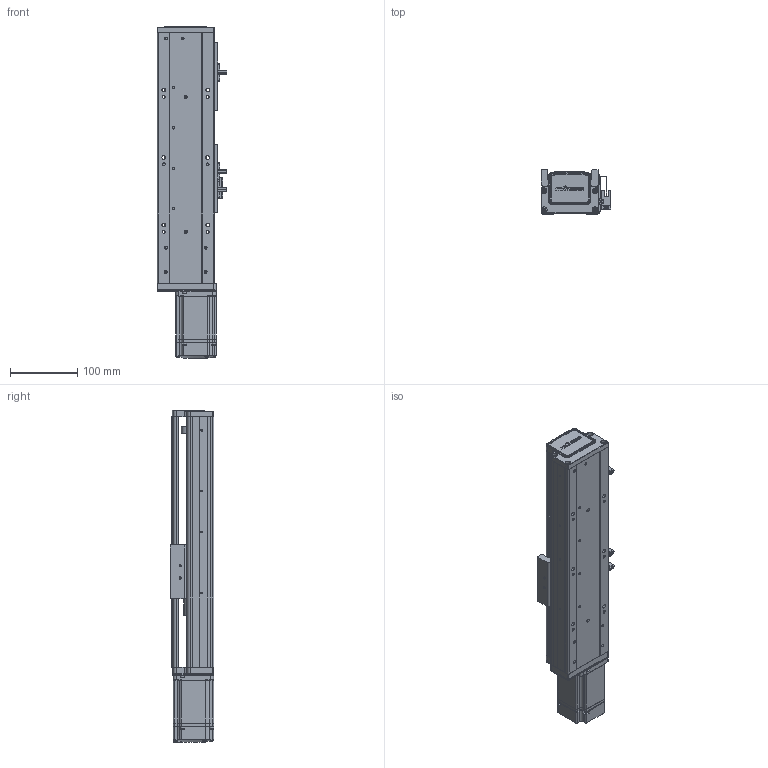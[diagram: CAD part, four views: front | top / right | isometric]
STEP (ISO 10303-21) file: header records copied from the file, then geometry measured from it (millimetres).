
FILE_DESCRIPTION (( 'STEP AP203' ), '1' );
FILE_NAME ('RY80-L1620-300-MK.SLDASM_150.step', '2021-02-20T02:32:56', ( '' ), ( '' ), 'SwSTEP 2.0', 'SolidWorks 2012', '' );
FILE_SCHEMA (( 'CONFIG_CONTROL_DESIGN' ));
Length unit declared in the file: millimetre
Products named in the file (14): RY80-L1620-300-MK.SLDASM_150; RY80前盖板(100W电机 PCD46 M4); RY80綴裔啣; RY80俋离覜茼え; 滅袉蝶18-24; 滅袉蝶18-10; 侂狟200W萇儂; 672嫖萇羲壽假蚾釱; 覜茼ん672; RY80前盖板(200W电机)M4; 1; RY80-300-MK倰第菁釱_150; RY80臏賑輸; RY80-300-MK倰第奻裔啣_150
Assembly tree (16 placements, depth 3):
  RY80-L1620-300-MK.SLDASM_150
    RY80-300-MK倰第菁釱_150
    RY80臏賑輸
    RY80-300-MK倰第奻裔啣_150
    RY80前盖板(200W电机)M4
    侂狟200W萇儂
      1
    滅袉蝶18-10
    672嫖萇羲壽假蚾釱  x2
    覜茼ん672  x3
    RY80俋离覜茼え
    滅袉蝶18-24
    RY80綴裔啣
    RY80前盖板(100W电机 PCD46 M4)
Bounding box: 103.7 x 65 x 492 mm (x, y, z)
Volume: 1055007.5 mm3; surface area: 348243.9 mm2
Topology: 15 solids, 15 shells, 1896 faces, 5190 edges, 3377 vertices
Faces by surface type: plane 1085, cylinder 632, cone 125, bspline 54
Entity records: 58317 total; most frequent: CARTESIAN_POINT 13849, ORIENTED_EDGE 9120, DIRECTION 8663, EDGE_CURVE 4560, VERTEX_POINT 2993, VECTOR 2941, LINE 2941, AXIS2_PLACEMENT_3D 2861
